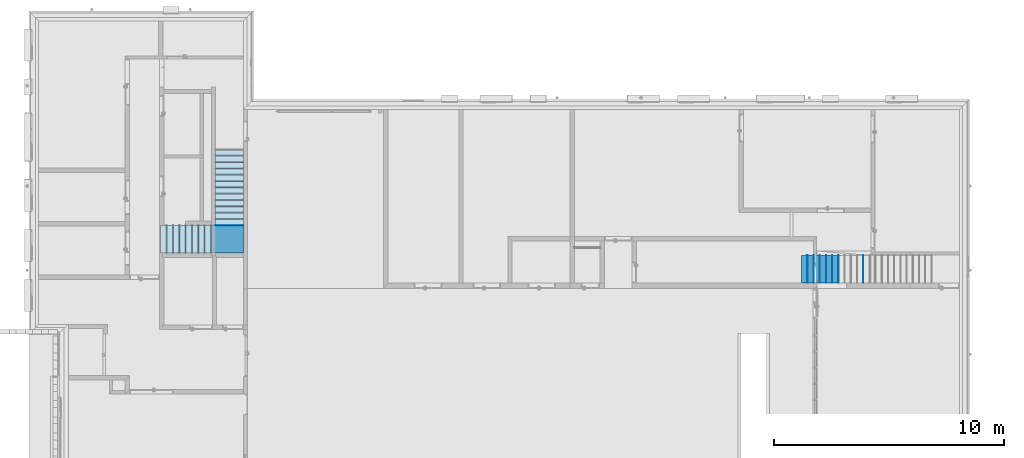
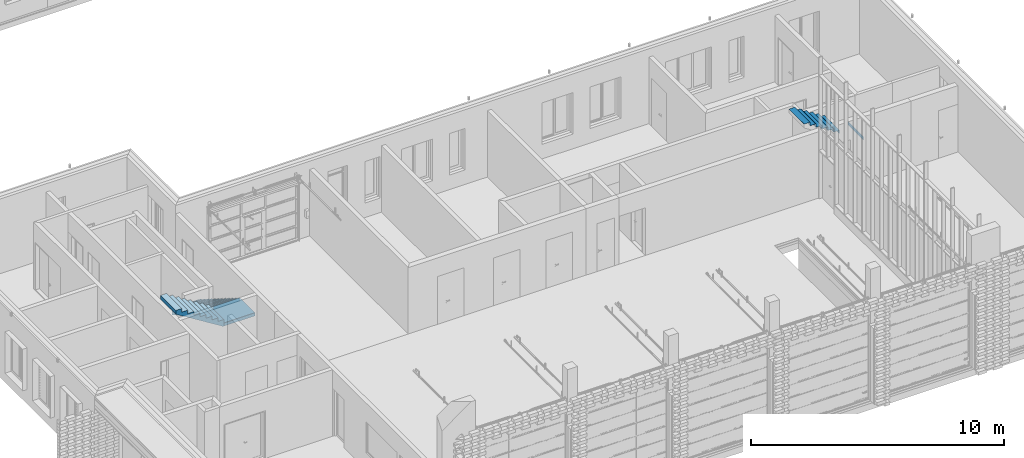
# One storey, part 27 of 62: 18 members, 2 elements without a shape of their own.
"""IFC2X3 building model written with IfcOpenShell, lengths in millimetres."""

from ifc_helpers import new_model, entity, si_unit, converted_unit, derived_unit, money_unit, direction, frame, origin_with_axes, place, context, subcontext, project, spatial, faceted_brep, material, type_object, element, aggregate, save


model = new_model("IFC2X3")

# Units and contexts
model_context = context("Model", 3, precision=0.01, world=origin_with_axes(), true_north=direction((0.0, 1.0)))
body_context = subcontext(model_context, "Body", "Model", "MODEL_VIEW")
ifc_project = project(units=[si_unit("LENGTHUNIT", "METRE", prefix="MILLI"), si_unit("AREAUNIT", "SQUARE_METRE"), si_unit("VOLUMEUNIT", "CUBIC_METRE"), converted_unit("PLANEANGLEUNIT", "DEGREE", entity("IfcPlaneAngleMeasure", 0.0174532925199), si_unit("PLANEANGLEUNIT", "RADIAN"), dimensions=[0, 0, 0, 0, 0, 0, 0]), si_unit("SOLIDANGLEUNIT", "STERADIAN"), money_unit("EUR"), converted_unit("TIMEUNIT", "Year", entity("IfcTimeMeasure", 31556926.0), si_unit("TIMEUNIT", "SECOND"), dimensions=[0, 0, 1, 0, 0, 0, 0]), si_unit("MASSUNIT", "GRAM", prefix="KILO"), si_unit("THERMODYNAMICTEMPERATUREUNIT", "DEGREE_CELSIUS"), si_unit("LUMINOUSINTENSITYUNIT", "LUMEN"), si_unit("ENERGYUNIT", "JOULE", prefix="MEGA"), derived_unit("THERMALCONDUCTANCEUNIT", [(si_unit("POWERUNIT", "WATT"), 1), (si_unit("LENGTHUNIT", "METRE"), -1), (si_unit("THERMODYNAMICTEMPERATUREUNIT", "KELVIN"), -1)]), derived_unit("SPECIFICHEATCAPACITYUNIT", [(si_unit("ENERGYUNIT", "JOULE"), 1), (si_unit("MASSUNIT", "GRAM", prefix="KILO"), -1), (si_unit("THERMODYNAMICTEMPERATUREUNIT", "KELVIN"), -1)]), derived_unit("MASSDENSITYUNIT", [(si_unit("MASSUNIT", "GRAM", prefix="KILO"), 1), (si_unit("VOLUMEUNIT", "CUBIC_METRE"), -1)])], contexts=[model_context])

# Site, building, storey
site_placement = place(None, origin_with_axes())
site = spatial("IfcSite", under=ifc_project, at=site_placement, Name="KIRDE 14, ELVA", CompositionType="ELEMENT")
building_placement = place(site_placement, origin_with_axes())
building = spatial("IfcBuilding", under=site, at=building_placement, Name="PPA ja Päästeameti ühishoone", CompositionType="ELEMENT")
storey_placement = place(building_placement, origin_with_axes())
storey = spatial("IfcBuildingStorey", under=building, at=storey_placement, Name="Esimene korrus", CompositionType="ELEMENT", Elevation=0.0)

# Stair, members
stair_1_placement = place(storey_placement, frame((7700.00010085, 18999.9988138, 0.0), z_axis=(0.0, 0.0, 1.0), x_axis=(0.845542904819, 0.533907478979, 0.0)))
stair_1 = element("IfcStair", 1, at=stair_1_placement, inside=storey, Name="TREPP", ShapeType="NOTDEFINED")
ifc_material_1 = material(Name="KON-04_Betoon - Konstuktsioon")
member_type_1 = type_object("IfcMemberType", Name="IfcMember", PredefinedType="USERDEFINED")
member_1_placement = place(stair_1_placement, origin_with_axes())
member_1 = element("IfcMember", 2, at=member_1_placement, type_object=member_type_1, material=ifc_material_1, Name="TT KONSTRUKTSIOON - 001", ObjectType="Stair Structure", context=body_context, shape_type="Brep", body=[
    faceted_brep([(-603.088157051, -3202.68399423, 2052.14285714), (-603.088157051, -3202.68399423, 1880.71428571), (-1617.73964811, -2561.99502791, 1880.71428571), (-1617.73964811, -2561.99502791, 2052.14285714), (-747.243175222, -3430.98057908, 1872.26776563), (-698.301656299, -3353.47248075, 1815.12490849), (-649.36013779, -3275.96438035, 1757.98205135), (-600.418619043, -3198.4562801, 1700.8391942), (-551.477100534, -3120.94817969, 1643.69633706), (-502.535582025, -3043.44007929, 1586.55347992), (-453.594063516, -2965.93197889, 1529.41062278), (-404.652545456, -2888.4238782, 1472.26776563), (-355.711026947, -2810.91577779, 1415.12490849), (-306.769508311, -2733.40767747, 1357.98205135), (-257.827989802, -2655.89957707, 1300.8391942), (-208.886471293, -2578.39147666, 1243.69633706), (-159.944952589, -2500.88337638, 1186.55347992), (-111.00343408, -2423.37527598, 1129.41062278), (-62.0619155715, -2345.86717557, 1072.26776563), (-13.1203968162, -2268.35907532, 1015.12490849), (35.8211216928, -2190.85097492, 957.982051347), (84.7626402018, -2113.34287452, 900.839194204), (133.704158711, -2035.83477411, 843.696337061), (182.645676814, -1958.32667345, 786.553479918), (231.587195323, -1880.81857305, 729.410622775), (280.528713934, -1803.31047271, 672.267765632), (329.470232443, -1725.8023723, 615.12490849), (378.411750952, -1648.2942719, 557.982051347), (427.353269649, -1570.78617162, 500.839194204), (476.294788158, -1493.27807121, 443.696337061), (525.236306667, -1415.76997081, 386.553479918), (574.177825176, -1338.2618704, 329.410622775), (623.119343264, -1260.75376973, 272.267765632), (672.060861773, -1183.24566933, 215.12490849), (721.002380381, -1105.73756899, 157.982051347), (769.94389889, -1028.22946858, 100.839194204), (818.885417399, -950.721368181, 43.696337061), (867.826935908, -873.213267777, -13.4465200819), (916.768454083, -795.705167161, -70.5893772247), (965.709972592, -718.197066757, -127.732234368), (987.95611757, -682.966111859, -153.706260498), (987.95611757, -682.966111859, 166.428571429), (865.157398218, -877.440982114, 166.428571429), (865.157398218, -877.440982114, 337.857142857), (718.332842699, -1109.96528333, 337.857142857), (718.332842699, -1109.96528333, 509.285714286), (571.508287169, -1342.48958454, 509.285714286), (571.508287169, -1342.48958454, 680.714285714), (424.68373164, -1575.01388575, 680.714285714), (424.68373164, -1575.01388575, 852.142857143), (277.85917612, -1807.53818697, 852.142857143), (277.85917612, -1807.53818697, 1023.57142857), (131.034620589, -2040.06248818, 1023.57142857), (131.034620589, -2040.06248818, 1195.0), (-15.7899349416, -2272.58678939, 1195.0), (-15.7899349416, -2272.58678939, 1366.42857143), (-162.614490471, -2505.1110906, 1366.42857143), (-162.614490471, -2505.1110906, 1537.85714286), (-309.43904599, -2737.63539182, 1537.85714286), (-309.43904599, -2737.63539182, 1709.28571429), (-456.263601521, -2970.15969302, 1709.28571429), (-456.263601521, -2970.15969302, 1880.71428571), (-747.243169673, -3430.98058258, 2052.14285714), (-749.912708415, -3435.20829951, 2052.14285714), (-749.912708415, -3435.20829951, 2073.57142857), (-919.655051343, -3704.0271996, 2073.57142857), (-1470.91509254, -2329.47072672, 1880.71428571), (-1761.89465711, -2790.29161851, 2052.14285714), (-1470.91509254, -2329.47072672, 1709.28571429), (-1324.09053698, -2096.94642553, 1709.28571429), (-1324.09053698, -2096.94642553, 1537.85714286), (-1177.26598155, -1864.42212426, 1537.85714286), (-1177.26598155, -1864.42212426, 1366.42857143), (-1030.44142598, -1631.89782307, 1366.42857143), (-1030.44142598, -1631.89782307, 1195.0), (-883.61687042, -1399.37352188, 1195.0), (-883.61687042, -1399.37352188, 1023.57142857), (-736.792314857, -1166.84922069, 1023.57142857), (-736.792314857, -1166.84922069, 852.142857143), (-589.967759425, -934.324919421, 852.142857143), (-589.967759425, -934.324919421, 680.714285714), (-443.143203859, -701.800618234, 680.714285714), (-443.143203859, -701.800618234, 509.285714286), (-296.318648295, -469.276317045, 509.285714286), (-296.318648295, -469.276317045, 337.857142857), (-149.494092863, -236.752015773, 337.857142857), (-149.494092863, -236.752015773, 166.428571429), (-26.6953705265, -42.277147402, 166.428571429), (-26.6953705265, -42.277147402, -153.706260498), (-48.941518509, -77.508100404, -127.732234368), (-97.8830370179, -155.016200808, -70.5893772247), (-146.824555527, -232.524301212, -13.4465200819), (-195.766074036, -310.032401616, 43.696337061), (-244.707592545, -387.54050202, 100.839194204), (-293.649111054, -465.048602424, 157.982051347), (-342.590629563, -542.556702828, 215.12490849), (-391.532148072, -620.064803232, 272.267765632), (-440.473666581, -697.572903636, 329.410622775), (-489.41518509, -775.08100404, 386.553479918), (-538.356703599, -852.589104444, 443.696337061), (-587.298222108, -930.097204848, 500.839194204), (-636.239740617, -1007.60530525, 557.982051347), (-685.181259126, -1085.11340566, 615.12490849), (-734.122777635, -1162.62150606, 672.267765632), (-783.064296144, -1240.12960646, 729.410622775), (-832.005814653, -1317.63770687, 786.553479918), (-880.947333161, -1395.14580727, 843.696337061), (-929.88885167, -1472.65390768, 900.839194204), (-978.830370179, -1550.16200808, 957.982051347), (-1027.77188869, -1627.67010848, 1015.12490849), (-1076.7134072, -1705.17820889, 1072.26776563), (-1125.65492571, -1782.68630929, 1129.41062278), (-1174.59644422, -1860.1944097, 1186.55347992), (-1223.53796272, -1937.7025101, 1243.69633706), (-1272.47948123, -2015.2106105, 1300.8391942), (-1321.42099974, -2092.71871091, 1357.98205135), (-1370.36251825, -2170.22681131, 1415.12490849), (-1419.30403676, -2247.73491172, 1472.26776563), (-1468.24555527, -2325.24301212, 1529.41062278), (-1517.18707378, -2402.75111252, 1586.55347992), (-1566.12859229, -2480.25921293, 1643.69633706), (-1615.0701108, -2557.76731333, 1700.8391942), (-1664.01162931, -2635.27541374, 1757.98205135), (-1712.95314781, -2712.78351414, 1815.12490849), (-1761.89466593, -2790.29161295, 1872.26776563), (-1934.30654205, -3063.33823347, 2073.57142857), (-1764.56419333, -2794.5193315, 2073.57142857), (-1764.5641937, -2794.51933208, 2052.14285714)], [[[0, 1, 2, 3]], [[4, 5, 6, 7, 8, 9, 10, 11, 12, 13, 14, 15, 16, 17, 18, 19, 20, 21, 22, 23, 24, 25, 26, 27, 28, 29, 30, 31, 32, 33, 34, 35, 36, 37, 38, 39, 40, 41, 42, 43, 44, 45, 46, 47, 48, 49, 50, 51, 52, 53, 54, 55, 56, 57, 58, 59, 60, 61, 1, 0, 62, 63, 64, 65]], [[2, 1, 61, 66]], [[67, 3, 2, 66, 68, 69, 70, 71, 72, 73, 74, 75, 76, 77, 78, 79, 80, 81, 82, 83, 84, 85, 86, 87, 88, 89, 90, 91, 92, 93, 94, 95, 96, 97, 98, 99, 100, 101, 102, 103, 104, 105, 106, 107, 108, 109, 110, 111, 112, 113, 114, 115, 116, 117, 118, 119, 120, 121, 122, 123, 124, 125, 126, 127]], [[62, 0, 3, 67, 127, 63]], [[124, 123, 5, 4, 65, 125]], [[123, 122, 6, 5]], [[122, 121, 7, 6]], [[121, 120, 8, 7]], [[120, 119, 9, 8]], [[119, 118, 10, 9]], [[118, 117, 11, 10]], [[117, 116, 12, 11]], [[116, 115, 13, 12]], [[115, 114, 14, 13]], [[114, 113, 15, 14]], [[113, 112, 16, 15]], [[112, 111, 17, 16]], [[111, 110, 18, 17]], [[110, 109, 19, 18]], [[109, 108, 20, 19]], [[108, 107, 21, 20]], [[107, 106, 22, 21]], [[106, 105, 23, 22]], [[105, 104, 24, 23]], [[104, 103, 25, 24]], [[103, 102, 26, 25]], [[102, 101, 27, 26]], [[101, 100, 28, 27]], [[100, 99, 29, 28]], [[99, 98, 30, 29]], [[98, 97, 31, 30]], [[97, 96, 32, 31]], [[96, 95, 33, 32]], [[95, 94, 34, 33]], [[94, 93, 35, 34]], [[93, 92, 36, 35]], [[92, 91, 37, 36]], [[91, 90, 38, 37]], [[90, 89, 39, 38]], [[89, 88, 40, 39]], [[88, 87, 41, 40]], [[42, 41, 87, 86]], [[43, 42, 86, 85]], [[84, 44, 43, 85]], [[45, 44, 84, 83]], [[82, 46, 45, 83]], [[47, 46, 82, 81]], [[80, 48, 47, 81]], [[49, 48, 80, 79]], [[78, 50, 49, 79]], [[51, 50, 78, 77]], [[76, 52, 51, 77]], [[53, 52, 76, 75]], [[74, 54, 53, 75]], [[55, 54, 74, 73]], [[72, 56, 55, 73]], [[57, 56, 72, 71]], [[70, 58, 57, 71]], [[59, 58, 70, 69]], [[68, 60, 59, 69]], [[61, 60, 68, 66]], [[127, 126, 64, 63]], [[65, 64, 126, 125]]]),
])
member_2_placement = place(stair_1_placement, origin_with_axes())
member_2 = element("IfcMember", 3, at=member_2_placement, type_object=member_type_1, material=ifc_material_1, Name="TM KONSTRUKTSIOON - 001", ObjectType="Stair Structure", context=body_context, shape_type="Brep", body=[
    faceted_brep([(-1931.00325077, -2683.51013609, 2073.57142857), (-1931.00325077, -2683.51013609, 2223.57142857), (-1761.8946568, -2790.29161802, 2223.57142857), (-1761.89430874, -2790.2918378, 2073.57142857), (-2571.69219204, -3698.16162292, 2223.57142857), (-2571.69219204, -3698.16162292, 2073.57142857), (-1387.93214135, -4445.63206978, 2223.57142857), (-749.912708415, -3435.20829951, 2223.57142857), (-1764.56419077, -2794.51932744, 2223.57142857), (-1764.56419077, -2794.51932744, 2073.57142857), (-749.912708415, -3435.20829951, 2073.57142857), (-1387.93214135, -4445.63206978, 2073.57142857)], [[[0, 1, 2, 3]], [[4, 1, 0, 5]], [[1, 4, 6, 7, 8, 2]], [[9, 3, 2, 8]], [[5, 0, 3, 9, 10, 11]], [[4, 5, 11, 6]], [[11, 10, 7, 6]], [[9, 8, 7, 10]]]),
])
member_3_placement = place(stair_1_placement, origin_with_axes())
member_3 = element("IfcMember", 4, at=member_3_placement, type_object=member_type_1, material=ifc_material_1, Name="TT KONSTRUKTSIOON - 002", ObjectType="Stair Structure", context=body_context, shape_type="Brep", body=[
    faceted_brep([(-2571.69220312, -3698.16161897, 2073.57142857), (-1931.00323778, -2683.51012457, 2073.57142857), (-1931.00323898, -2683.51012647, 2223.57142857), (-2571.69220312, -3698.16161897, 2223.57142857), (-1971.52556547, -2657.92280826, 2073.57142857), (-2612.21453104, -3672.57430304, 2073.57142857), (-3636.18145023, -1606.796723, 3300.8391942), (-3713.68955074, -1557.85520466, 3357.98205135), (-3791.19765125, -1508.91368633, 3415.12490849), (-3791.19765125, -1508.91368633, 3595.0), (-3562.90106427, -1653.06870399, 3595.0), (-3562.90106427, -1653.06870399, 3423.57142857), (-3330.37676275, -1799.89325904, 3423.57142857), (-3330.37676275, -1799.89325904, 3252.14285714), (-3097.85246123, -1946.71781408, 3252.14285714), (-3097.85246123, -1946.71781408, 3080.71428571), (-2865.32815972, -2093.54236912, 3080.71428571), (-2865.32815972, -2093.54236912, 2909.28571429), (-2632.8038582, -2240.36692417, 2909.28571429), (-2632.8038582, -2240.36692417, 2737.85714286), (-2400.27955668, -2387.19147921, 2737.85714286), (-2400.27955668, -2387.19147921, 2566.42857143), (-2167.75525516, -2534.01603426, 2566.42857143), (-2167.75525516, -2534.01603426, 2395.0), (-1935.23095357, -2680.84058917, 2395.0), (-1935.23095357, -2680.84058917, 2223.57142857), (-2008.51133806, -2634.56860585, 2100.8391942), (-2086.01943857, -2585.62708751, 2157.98205135), (-2163.52754052, -2536.68557145, 2215.12490849), (-2241.03564103, -2487.74405311, 2272.26776563), (-2318.54374154, -2438.80253477, 2329.41062278), (-2396.05184205, -2389.86101644, 2386.55347992), (-2473.55994256, -2340.9194981, 2443.69633706), (-2551.06804307, -2291.97797976, 2500.8391942), (-2628.57614358, -2243.03646142, 2557.98205135), (-2706.08424409, -2194.09494308, 2615.12490849), (-2783.5923446, -2145.15342474, 2672.26776563), (-2861.10044512, -2096.2119064, 2729.41062278), (-2938.60854563, -2047.27038806, 2786.55347992), (-3016.11664614, -1998.32886972, 2843.69633706), (-3093.62474665, -1949.38735138, 2900.8391942), (-3171.13284716, -1900.44583304, 2957.98205135), (-3248.64094767, -1851.5043147, 3015.12490849), (-3326.14904818, -1802.56279636, 3072.26776563), (-3403.65714869, -1753.62127802, 3129.41062278), (-3481.1652492, -1704.67975968, 3186.55347992), (-3558.67334972, -1655.73824134, 3243.69633706), (-2575.91991767, -3695.49208163, 2223.57142857), (-2726.70840414, -3600.2785823, 2157.98205135), (-2649.20030363, -3649.22010063, 2100.8391942), (-2575.91991767, -3695.49208163, 2395.0), (-2808.44421921, -3548.66752662, 2395.0), (-2808.44421921, -3548.66752662, 2566.42857143), (-3040.96852074, -3401.8429716, 2566.42857143), (-3040.96852074, -3401.8429716, 2737.85714286), (-3273.49282227, -3255.01841657, 2737.85714286), (-3273.49282227, -3255.01841657, 2909.28571429), (-3506.0171238, -3108.19386155, 2909.28571429), (-3506.0171238, -3108.19386155, 3080.71428571), (-3738.54142533, -2961.36930653, 3080.71428571), (-3738.54142533, -2961.36930653, 3252.14285714), (-3971.06572687, -2814.54475151, 3252.14285714), (-3971.06572687, -2814.54475151, 3423.57142857), (-4203.5900284, -2667.72019649, 3423.57142857), (-4203.5900284, -2667.72019649, 3595.0), (-4431.88661538, -2523.56517883, 3595.0), (-4431.88661538, -2523.56517883, 3415.12490849), (-4354.37851487, -2572.50669717, 3357.98205135), (-4276.87041436, -2621.44821551, 3300.8391942), (-4199.36231385, -2670.38973385, 3243.69633706), (-4121.85421334, -2719.33125218, 3186.55347992), (-4044.34611283, -2768.27277052, 3129.41062278), (-3966.83801236, -2817.21428894, 3072.26776563), (-3889.32991185, -2866.15580728, 3015.12490849), (-3811.82181134, -2915.09732562, 2957.98205135), (-3734.31371097, -2964.03884417, 2900.8391942), (-3656.80561046, -3012.98036251, 2843.69633706), (-3579.29750995, -3061.92188085, 2786.55347992), (-3501.78940956, -3110.86339939, 2729.41062278), (-3424.28130905, -3159.80491773, 2672.26776563), (-3346.77320853, -3208.74643607, 2615.12490849), (-3269.26510814, -3257.68795459, 2557.98205135), (-3191.75700763, -3306.62947293, 2500.8391942), (-3114.24890712, -3355.57099127, 2443.69633706), (-3036.74080661, -3404.51250961, 2386.55347992), (-2959.23270578, -3453.45402744, 2329.41062278), (-2881.72460527, -3502.39554578, 2272.26776563), (-2804.21650476, -3551.33706412, 2215.12490849)], [[[0, 1, 2, 3]], [[4, 1, 0, 5]], [[6, 7, 8, 9, 10, 11, 12, 13, 14, 15, 16, 17, 18, 19, 20, 21, 22, 23, 24, 25, 2, 1, 4, 26, 27, 28, 29, 30, 31, 32, 33, 34, 35, 36, 37, 38, 39, 40, 41, 42, 43, 44, 45, 46]], [[25, 47, 3, 2]], [[48, 49, 5, 0, 3, 47, 50, 51, 52, 53, 54, 55, 56, 57, 58, 59, 60, 61, 62, 63, 64, 65, 66, 67, 68, 69, 70, 71, 72, 73, 74, 75, 76, 77, 78, 79, 80, 81, 82, 83, 84, 85, 86, 87]], [[4, 5, 49, 26]], [[67, 7, 6, 68]], [[66, 8, 7, 67]], [[9, 8, 66, 65]], [[9, 65, 64, 10]], [[64, 63, 11, 10]], [[63, 62, 12, 11]], [[62, 61, 13, 12]], [[61, 60, 14, 13]], [[60, 59, 15, 14]], [[59, 58, 16, 15]], [[58, 57, 17, 16]], [[57, 56, 18, 17]], [[56, 55, 19, 18]], [[55, 54, 20, 19]], [[54, 53, 21, 20]], [[53, 52, 22, 21]], [[52, 51, 23, 22]], [[51, 50, 24, 23]], [[50, 47, 25, 24]], [[48, 27, 26, 49]], [[87, 28, 27, 48]], [[86, 29, 28, 87]], [[85, 30, 29, 86]], [[84, 31, 30, 85]], [[83, 32, 31, 84]], [[82, 33, 32, 83]], [[81, 34, 33, 82]], [[80, 35, 34, 81]], [[79, 36, 35, 80]], [[78, 37, 36, 79]], [[77, 38, 37, 78]], [[76, 39, 38, 77]], [[75, 40, 39, 76]], [[74, 41, 40, 75]], [[73, 42, 41, 74]], [[72, 43, 42, 73]], [[71, 44, 43, 72]], [[70, 45, 44, 71]], [[69, 46, 45, 70]], [[68, 6, 46, 69]]]),
])
ifc_material_2 = material(Name="SV-02_Puit - Põrand")
member_type_2 = type_object("IfcMemberType", Name="IfcMember", PredefinedType="USERDEFINED")
member_4_placement = place(stair_1_placement, frame((-1254.56892077, -3110.63609772, 2223.57142857), z_axis=(0.0, 0.0, 1.0), x_axis=(-0.845542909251, 0.533907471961, 0.0)))
member_4 = element("IfcMember", 5, at=member_4_placement, type_object=member_type_2, material=ifc_material_2, Name="SL RISER - 001", ObjectType="Stair Riser", context=body_context, shape_type="Brep", body=[
    faceted_brep([(600.0, 0.0, 0.0), (600.0, 5.0, 0.0), (-600.0, 5.0, 0.0), (-600.0, 0.0, 0.0), (600.0, 0.0, -166.428571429), (600.0, 5.0, -166.428571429), (-600.0, 5.0, -166.428571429), (-600.0, 0.0, -166.428571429)], [[[0, 1, 2, 3]], [[0, 4, 5, 1]], [[1, 5, 6, 2]], [[3, 2, 6, 7]], [[4, 0, 3, 7]], [[5, 4, 7, 6]]]),
])

stair_2_placement = place(storey_placement, frame((38844.704885, 14400.0005642, 0.0), z_axis=(0.0, 0.0, 1.0), x_axis=(0.845542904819, 0.533907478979, 0.0)))
stair_2 = element("IfcStair", 6, at=stair_2_placement, inside=storey, Name="TREPP", ShapeType="NOTDEFINED")
member_5_placement = place(stair_2_placement, frame((-2831.60691513, 1078.37946855, 2052.14285714), z_axis=(0.0, 0.0, 1.0), x_axis=(0.533907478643, 0.845542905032, 0.0)))
member_5 = element("IfcMember", 7, at=member_5_placement, type_object=member_type_2, material=ifc_material_2, Name="TV TÕUS - 032", ObjectType="Stair Riser", context=body_context, shape_type="Brep", body=[
    faceted_brep([(600.0, 0.0, 0.0), (600.0, 5.0, 0.0), (-600.0, 5.0, 0.0), (-600.0, 0.0, 0.0), (600.0, 0.0, -166.428571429), (600.0, 5.0, -166.428571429), (-600.0, 5.0, -166.428571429), (-600.0, 0.0, -166.428571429)], [[[0, 1, 2, 3]], [[0, 4, 5, 1]], [[1, 5, 6, 2]], [[3, 2, 6, 7]], [[4, 0, 3, 7]], [[5, 4, 7, 6]]]),
])
member_6_placement = place(stair_2_placement, frame((-3744.79325256, 1654.99954548, 2737.85714286), z_axis=(0.0, 0.0, 1.0), x_axis=(0.533907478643, 0.845542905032, 0.0)))
member_6 = element("IfcMember", 8, at=member_6_placement, type_object=member_type_2, material=ifc_material_2, Name="TV TÕUS - 036", ObjectType="Stair Riser", context=body_context, shape_type="Brep", body=[
    faceted_brep([(600.0, 0.0, 0.0), (600.0, 5.0, 0.0), (-600.0, 5.0, 0.0), (-600.0, 0.0, 0.0), (600.0, 0.0, -166.428571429), (600.0, 5.0, -166.428571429), (-600.0, 5.0, -166.428571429), (-600.0, 0.0, -166.428571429)], [[[0, 1, 2, 3]], [[0, 4, 5, 1]], [[1, 5, 6, 2]], [[3, 2, 6, 7]], [[4, 0, 3, 7]], [[5, 4, 7, 6]]]),
])
member_7_placement = place(stair_2_placement, frame((-3973.08983692, 1799.15456472, 2909.28571429), z_axis=(0.0, 0.0, 1.0), x_axis=(0.533907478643, 0.845542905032, 0.0)))
member_7 = element("IfcMember", 9, at=member_7_placement, type_object=member_type_2, material=ifc_material_2, Name="TV TÕUS - 037", ObjectType="Stair Riser", context=body_context, shape_type="Brep", body=[
    faceted_brep([(600.0, 0.0, 0.0), (600.0, 5.0, 0.0), (-600.0, 5.0, 0.0), (-600.0, 0.0, 0.0), (600.0, 0.0, -166.428571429), (600.0, 5.0, -166.428571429), (-600.0, 5.0, -166.428571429), (-600.0, 0.0, -166.428571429)], [[[0, 1, 2, 3]], [[0, 4, 5, 1]], [[1, 5, 6, 2]], [[3, 2, 6, 7]], [[4, 0, 3, 7]], [[5, 4, 7, 6]]]),
])
member_8_placement = place(stair_2_placement, frame((-4201.38642128, 1943.30958395, 3080.71428571), z_axis=(0.0, 0.0, 1.0), x_axis=(0.533907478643, 0.845542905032, 0.0)))
member_8 = element("IfcMember", 10, at=member_8_placement, type_object=member_type_2, material=ifc_material_2, Name="TV TÕUS - 038", ObjectType="Stair Riser", context=body_context, shape_type="Brep", body=[
    faceted_brep([(600.0, 0.0, 0.0), (600.0, 5.0, 0.0), (-600.0, 5.0, 0.0), (-600.0, 0.0, 0.0), (600.0, 0.0, -166.428571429), (600.0, 5.0, -166.428571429), (-600.0, 5.0, -166.428571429), (-600.0, 0.0, -166.428571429)], [[[0, 1, 2, 3]], [[0, 4, 5, 1]], [[1, 5, 6, 2]], [[3, 2, 6, 7]], [[4, 0, 3, 7]], [[5, 4, 7, 6]]]),
])
member_9_placement = place(stair_2_placement, frame((-4429.68300564, 2087.46460319, 3252.14285714), z_axis=(0.0, 0.0, 1.0), x_axis=(0.533907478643, 0.845542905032, 0.0)))
member_9 = element("IfcMember", 11, at=member_9_placement, type_object=member_type_2, material=ifc_material_2, Name="TV TÕUS - 039", ObjectType="Stair Riser", context=body_context, shape_type="Brep", body=[
    faceted_brep([(600.0, 0.0, 0.0), (600.0, 5.0, 0.0), (-600.0, 5.0, 0.0), (-600.0, 0.0, 0.0), (600.0, 0.0, -166.428571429), (600.0, 5.0, -166.428571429), (-600.0, 5.0, -166.428571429), (-600.0, 0.0, -166.428571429)], [[[0, 1, 2, 3]], [[0, 4, 5, 1]], [[1, 5, 6, 2]], [[3, 2, 6, 7]], [[4, 0, 3, 7]], [[5, 4, 7, 6]]]),
])
member_10_placement = place(stair_2_placement, frame((-4657.97959, 2231.61962242, 3423.57142857), z_axis=(0.0, 0.0, 1.0), x_axis=(0.533907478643, 0.845542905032, 0.0)))
member_10 = element("IfcMember", 12, at=member_10_placement, type_object=member_type_2, material=ifc_material_2, Name="TV TÕUS - 040", ObjectType="Stair Riser", context=body_context, shape_type="Brep", body=[
    faceted_brep([(600.0, 0.0, 0.0), (600.0, 5.0, 0.0), (-600.0, 5.0, 0.0), (-600.0, 0.0, 0.0), (600.0, 0.0, -166.428571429), (600.0, 5.0, -166.428571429), (-600.0, 5.0, -166.428571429), (-600.0, 0.0, -166.428571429)], [[[0, 1, 2, 3]], [[0, 4, 5, 1]], [[1, 5, 6, 2]], [[3, 2, 6, 7]], [[4, 0, 3, 7]], [[5, 4, 7, 6]]]),
])
member_11_placement = place(stair_2_placement, frame((-4886.27617436, 2375.77464165, 3595.0), z_axis=(0.0, 0.0, 1.0), x_axis=(0.533907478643, 0.845542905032, 0.0)))
member_11 = element("IfcMember", 13, at=member_11_placement, type_object=member_type_2, material=ifc_material_2, Name="TV TÕUS - 041", ObjectType="Stair Riser", context=body_context, shape_type="Brep", body=[
    faceted_brep([(600.0, 0.0, 0.0), (600.0, 5.0, 0.0), (-600.0, 5.0, 0.0), (-600.0, 0.0, 0.0), (600.0, 0.0, -166.428571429), (600.0, 5.0, -166.428571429), (-600.0, 5.0, -166.428571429), (-600.0, 0.0, -166.428571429)], [[[0, 1, 2, 3]], [[0, 4, 5, 1]], [[1, 5, 6, 2]], [[3, 2, 6, 7]], [[4, 0, 3, 7]], [[5, 4, 7, 6]]]),
])

# Member
member_type_3 = type_object("IfcMemberType", Name="IfcMember", PredefinedType="USERDEFINED")
member_12_placement = place(stair_1_placement, frame((-1254.56892077, -3110.63609772, 2228.57142857), z_axis=(0.0, 0.0, 1.0), x_axis=(-0.845542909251, 0.533907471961, 0.0)))
member_12 = element("IfcMember", 14, at=member_12_placement, type_object=member_type_3, material=ifc_material_2, Name="SL TREAD - 001", ObjectType="Stair Tread", context=body_context, shape_type="Brep", body=[
    faceted_brep([(-599.999998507, 1199.99999832, 0.0), (804.999990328, 1199.99999761, 0.0), (804.999990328, 1199.99999761, -5.0), (-599.999998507, 1199.99999832, -5.0), (-599.999998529, 12.4999976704, 0.0), (600.000002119, 12.4999976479, 0.0), (600.000002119, -2.35205188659e-06, 0.0), (804.999990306, -3.03676106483e-06, 0.0), (804.999990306, -3.03676106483e-06, -5.0), (600.000002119, 2.5499395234, -5.0), (-599.999998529, 2.54993954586, -5.0), (600.000002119, -2.35205188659e-06, -5.0), (-599.999998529, 2.92444213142, -4.46515487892), (-599.999998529, 4.46515254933, -2.92444446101), (-599.999998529, 6.24999767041, -1.67468245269), (-599.999998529, 8.22474587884, -0.753842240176), (-599.999998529, 10.3293954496, -0.189903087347), (600.000002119, 10.3293954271, -0.189903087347), (600.000002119, 8.22474585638, -0.753842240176), (600.000002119, 6.24999764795, -1.67468245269), (600.000002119, 4.46515252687, -2.92444446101), (600.000002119, 2.92444210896, -4.46515487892)], [[[0, 1, 2, 3]], [[1, 0, 4, 5, 6, 7]], [[1, 7, 8, 2]], [[9, 10, 3, 2, 8, 11]], [[4, 0, 3, 10, 12, 13, 14, 15, 16]], [[4, 16, 17, 5]], [[9, 11, 6, 5, 17, 18, 19, 20, 21]], [[6, 11, 8, 7]], [[10, 9, 21, 12]], [[13, 12, 21, 20]], [[14, 13, 20, 19]], [[15, 14, 19, 18]], [[16, 15, 18, 17]]]),
])

aggregate(stair_1, [member_1, member_2, member_3, member_4, member_12])

member_13_placement = place(stair_2_placement, frame((-3744.79325256, 1654.99954548, 2742.85714286), z_axis=(0.0, 0.0, 1.0), x_axis=(0.533907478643, 0.845542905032, 0.0)))
member_13 = element("IfcMember", 15, at=member_13_placement, type_object=member_type_3, material=ifc_material_2, Name="TV ASTE - 036", ObjectType="Stair Tread", context=body_context, shape_type="Brep", body=[
    faceted_brep([(-600.0, 274.999996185, 0.0), (600.0, 274.999995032, 0.0), (600.0, 274.999995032, -5.0), (-600.0, 274.999996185, -5.0), (-600.0, 12.5, 0.0), (600.0, 12.5, 0.0), (600.0, 2.92444446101, -4.46515487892), (600.0, 2.54994187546, -5.0), (600.0, 10.3293977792, -0.189903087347), (600.0, 8.22474820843, -0.753842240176), (600.0, 6.25, -1.67468245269), (600.0, 4.46515487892, -2.92444446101), (-600.0, 2.54994187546, -5.0), (-600.0, 2.92444446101, -4.46515487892), (-600.0, 4.46515487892, -2.92444446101), (-600.0, 6.25, -1.67468245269), (-600.0, 8.22474820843, -0.753842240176), (-600.0, 10.3293977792, -0.189903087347)], [[[0, 1, 2, 3]], [[1, 0, 4, 5]], [[6, 7, 2, 1, 5, 8, 9, 10, 11]], [[7, 12, 3, 2]], [[4, 0, 3, 12, 13, 14, 15, 16, 17]], [[8, 5, 4, 17]], [[7, 6, 13, 12]], [[9, 8, 17, 16]], [[10, 9, 16, 15]], [[11, 10, 15, 14]], [[6, 11, 14, 13]]]),
])

member_14_placement = place(stair_2_placement, frame((-3973.08983692, 1799.15456472, 2914.28571429), z_axis=(0.0, 0.0, 1.0), x_axis=(0.533907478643, 0.845542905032, 0.0)))
member_14 = element("IfcMember", 16, at=member_14_placement, type_object=member_type_3, material=ifc_material_2, Name="TV ASTE - 037", ObjectType="Stair Tread", context=body_context, shape_type="Brep", body=[
    faceted_brep([(-600.0, 274.999996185, 0.0), (600.0, 274.999995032, 0.0), (600.0, 274.999995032, -5.0), (-600.0, 274.999996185, -5.0), (-600.0, 12.5, 0.0), (600.0, 12.5, 0.0), (600.0, 2.92444446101, -4.46515487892), (600.0, 2.54994187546, -5.0), (600.0, 10.3293977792, -0.189903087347), (600.0, 8.22474820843, -0.753842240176), (600.0, 6.25, -1.67468245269), (600.0, 4.46515487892, -2.92444446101), (-600.0, 2.54994187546, -5.0), (-600.0, 2.92444446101, -4.46515487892), (-600.0, 4.46515487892, -2.92444446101), (-600.0, 6.25, -1.67468245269), (-600.0, 8.22474820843, -0.753842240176), (-600.0, 10.3293977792, -0.189903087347)], [[[0, 1, 2, 3]], [[1, 0, 4, 5]], [[6, 7, 2, 1, 5, 8, 9, 10, 11]], [[7, 12, 3, 2]], [[4, 0, 3, 12, 13, 14, 15, 16, 17]], [[8, 5, 4, 17]], [[7, 6, 13, 12]], [[9, 8, 17, 16]], [[10, 9, 16, 15]], [[11, 10, 15, 14]], [[6, 11, 14, 13]]]),
])

member_15_placement = place(stair_2_placement, frame((-4201.38642128, 1943.30958395, 3085.71428571), z_axis=(0.0, 0.0, 1.0), x_axis=(0.533907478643, 0.845542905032, 0.0)))
member_15 = element("IfcMember", 17, at=member_15_placement, type_object=member_type_3, material=ifc_material_2, Name="TV ASTE - 038", ObjectType="Stair Tread", context=body_context, shape_type="Brep", body=[
    faceted_brep([(-600.0, 274.999996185, 0.0), (600.0, 274.999995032, 0.0), (600.0, 274.999995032, -5.0), (-600.0, 274.999996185, -5.0), (-600.0, 12.5, 0.0), (600.0, 12.5, 0.0), (600.0, 2.92444446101, -4.46515487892), (600.0, 2.54994187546, -5.0), (600.0, 10.3293977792, -0.189903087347), (600.0, 8.22474820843, -0.753842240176), (600.0, 6.25, -1.67468245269), (600.0, 4.46515487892, -2.92444446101), (-600.0, 2.54994187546, -5.0), (-600.0, 2.92444446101, -4.46515487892), (-600.0, 4.46515487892, -2.92444446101), (-600.0, 6.25, -1.67468245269), (-600.0, 8.22474820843, -0.753842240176), (-600.0, 10.3293977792, -0.189903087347)], [[[0, 1, 2, 3]], [[1, 0, 4, 5]], [[6, 7, 2, 1, 5, 8, 9, 10, 11]], [[7, 12, 3, 2]], [[4, 0, 3, 12, 13, 14, 15, 16, 17]], [[8, 5, 4, 17]], [[7, 6, 13, 12]], [[9, 8, 17, 16]], [[10, 9, 16, 15]], [[11, 10, 15, 14]], [[6, 11, 14, 13]]]),
])

member_16_placement = place(stair_2_placement, frame((-4429.68300564, 2087.46460319, 3257.14285714), z_axis=(0.0, 0.0, 1.0), x_axis=(0.533907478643, 0.845542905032, 0.0)))
member_16 = element("IfcMember", 18, at=member_16_placement, type_object=member_type_3, material=ifc_material_2, Name="TV ASTE - 039", ObjectType="Stair Tread", context=body_context, shape_type="Brep", body=[
    faceted_brep([(-600.0, 274.999996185, 0.0), (600.0, 274.999995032, 0.0), (600.0, 274.999995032, -5.0), (-600.0, 274.999996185, -5.0), (-600.0, 12.5, 0.0), (600.0, 12.5, 0.0), (600.0, 2.92444446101, -4.46515487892), (600.0, 2.54994187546, -5.0), (600.0, 10.3293977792, -0.189903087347), (600.0, 8.22474820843, -0.753842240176), (600.0, 6.25, -1.67468245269), (600.0, 4.46515487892, -2.92444446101), (-600.0, 2.54994187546, -5.0), (-600.0, 2.92444446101, -4.46515487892), (-600.0, 4.46515487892, -2.92444446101), (-600.0, 6.25, -1.67468245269), (-600.0, 8.22474820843, -0.753842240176), (-600.0, 10.3293977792, -0.189903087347)], [[[0, 1, 2, 3]], [[1, 0, 4, 5]], [[6, 7, 2, 1, 5, 8, 9, 10, 11]], [[7, 12, 3, 2]], [[4, 0, 3, 12, 13, 14, 15, 16, 17]], [[8, 5, 4, 17]], [[7, 6, 13, 12]], [[9, 8, 17, 16]], [[10, 9, 16, 15]], [[11, 10, 15, 14]], [[6, 11, 14, 13]]]),
])

member_17_placement = place(stair_2_placement, frame((-4657.97959, 2231.61962242, 3428.57142857), z_axis=(0.0, 0.0, 1.0), x_axis=(0.533907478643, 0.845542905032, 0.0)))
member_17 = element("IfcMember", 19, at=member_17_placement, type_object=member_type_3, material=ifc_material_2, Name="TV ASTE - 040", ObjectType="Stair Tread", context=body_context, shape_type="Brep", body=[
    faceted_brep([(-600.0, 274.999996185, 0.0), (600.0, 274.999995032, 0.0), (600.0, 274.999995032, -5.0), (-600.0, 274.999996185, -5.0), (-600.0, 12.5, 0.0), (600.0, 12.5, 0.0), (600.0, 2.92444446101, -4.46515487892), (600.0, 2.54994187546, -5.0), (600.0, 10.3293977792, -0.189903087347), (600.0, 8.22474820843, -0.753842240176), (600.0, 6.25, -1.67468245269), (600.0, 4.46515487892, -2.92444446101), (-600.0, 2.54994187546, -5.0), (-600.0, 2.92444446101, -4.46515487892), (-600.0, 4.46515487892, -2.92444446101), (-600.0, 6.25, -1.67468245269), (-600.0, 8.22474820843, -0.753842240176), (-600.0, 10.3293977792, -0.189903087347)], [[[0, 1, 2, 3]], [[1, 0, 4, 5]], [[6, 7, 2, 1, 5, 8, 9, 10, 11]], [[7, 12, 3, 2]], [[4, 0, 3, 12, 13, 14, 15, 16, 17]], [[8, 5, 4, 17]], [[7, 6, 13, 12]], [[9, 8, 17, 16]], [[10, 9, 16, 15]], [[11, 10, 15, 14]], [[6, 11, 14, 13]]]),
])

member_18_placement = place(stair_2_placement, frame((-4886.27617436, 2375.77464165, 3600.0), z_axis=(0.0, 0.0, 1.0), x_axis=(0.533907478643, 0.845542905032, 0.0)))
member_18 = element("IfcMember", 20, at=member_18_placement, type_object=member_type_3, material=ifc_material_2, Name="TV ASTE - 041", ObjectType="Stair Tread", context=body_context, shape_type="Brep", body=[
    faceted_brep([(-600.0, 270.0, 0.0), (600.0, 270.0, 0.0), (600.0, 270.0, -5.0), (-600.0, 270.0, -5.0), (-600.0, 12.5, 0.0), (600.0, 12.5, 0.0), (600.0, 2.92444446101, -4.46515487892), (600.0, 2.54994187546, -5.0), (600.0, 10.3293977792, -0.189903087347), (600.0, 8.22474820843, -0.753842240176), (600.0, 6.25, -1.67468245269), (600.0, 4.46515487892, -2.92444446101), (-600.0, 2.54994187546, -5.0), (-600.0, 2.92444446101, -4.46515487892), (-600.0, 4.46515487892, -2.92444446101), (-600.0, 6.25, -1.67468245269), (-600.0, 8.22474820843, -0.753842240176), (-600.0, 10.3293977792, -0.189903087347)], [[[0, 1, 2, 3]], [[1, 0, 4, 5]], [[6, 7, 2, 1, 5, 8, 9, 10, 11]], [[7, 12, 3, 2]], [[4, 0, 3, 12, 13, 14, 15, 16, 17]], [[8, 5, 4, 17]], [[7, 6, 13, 12]], [[9, 8, 17, 16]], [[10, 9, 16, 15]], [[11, 10, 15, 14]], [[6, 11, 14, 13]]]),
])

aggregate(stair_2, [member_5, member_6, member_7, member_8, member_9, member_10, member_11, member_13, member_14, member_15, member_16, member_17, member_18])

save(model, "model.ifc")
